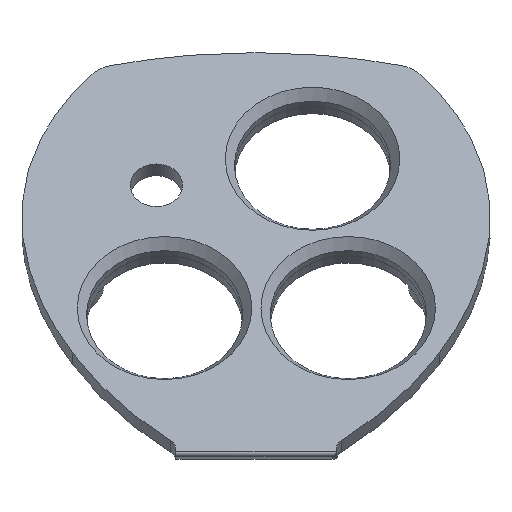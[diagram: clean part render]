
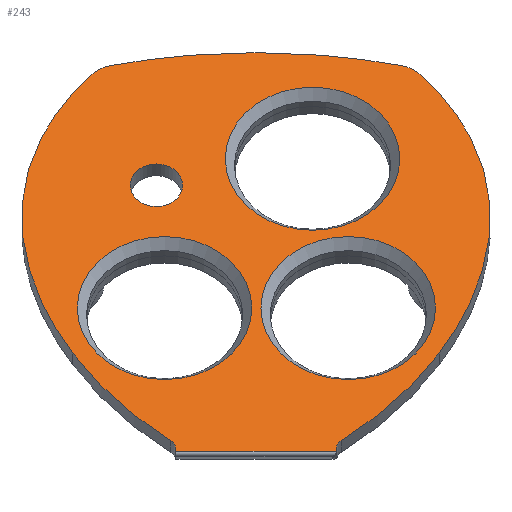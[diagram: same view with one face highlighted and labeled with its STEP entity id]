
A CAD part, front view. The second image highlights one B-rep face of the part: STEP entity #243.
In plain terms, the highlighted planar face has unit normal (0, -0.819, 0.574).
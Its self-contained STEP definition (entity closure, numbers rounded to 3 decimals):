
#128=FACE_BOUND('',#359,.T.);
#129=FACE_BOUND('',#360,.T.);
#130=FACE_BOUND('',#361,.T.);
#131=FACE_BOUND('',#362,.T.);
#132=FACE_BOUND('',#363,.T.);
#185=CIRCLE('',#1103,3.175);
#186=CIRCLE('',#1104,10.628);
#187=CIRCLE('',#1105,1.5);
#188=CIRCLE('',#1106,5.);
#189=CIRCLE('',#1107,5.);
#190=CIRCLE('',#1108,1.5);
#191=CIRCLE('',#1109,10.628);
#192=CIRCLE('',#1110,10.628);
#221=PLANE('',#1111);
#243=ADVANCED_FACE('',(#128,#129,#130,#131,#132),#221,.F.);
#359=EDGE_LOOP('',(#577));
#360=EDGE_LOOP('',(#578));
#361=EDGE_LOOP('',(#579,#580,#581,#582,#583,#584,#585,#586,#587,#588,#589,
#590,#591,#592,#593));
#362=EDGE_LOOP('',(#594));
#363=EDGE_LOOP('',(#595));
#456=LINE('',#1614,#495);
#457=LINE('',#1617,#496);
#458=LINE('',#1619,#497);
#495=VECTOR('',#1234,1.);
#496=VECTOR('',#1235,1.);
#497=VECTOR('',#1236,1.);
#577=ORIENTED_EDGE('',*,*,#943,.T.);
#578=ORIENTED_EDGE('',*,*,#944,.T.);
#579=ORIENTED_EDGE('',*,*,#945,.T.);
#580=ORIENTED_EDGE('',*,*,#946,.T.);
#581=ORIENTED_EDGE('',*,*,#947,.F.);
#582=ORIENTED_EDGE('',*,*,#948,.F.);
#583=ORIENTED_EDGE('',*,*,#949,.F.);
#584=ORIENTED_EDGE('',*,*,#900,.F.);
#585=ORIENTED_EDGE('',*,*,#950,.F.);
#586=ORIENTED_EDGE('',*,*,#951,.F.);
#587=ORIENTED_EDGE('',*,*,#952,.F.);
#588=ORIENTED_EDGE('',*,*,#953,.T.);
#589=ORIENTED_EDGE('',*,*,#954,.T.);
#590=ORIENTED_EDGE('',*,*,#955,.T.);
#591=ORIENTED_EDGE('',*,*,#894,.T.);
#592=ORIENTED_EDGE('',*,*,#956,.T.);
#593=ORIENTED_EDGE('',*,*,#957,.T.);
#594=ORIENTED_EDGE('',*,*,#958,.F.);
#595=ORIENTED_EDGE('',*,*,#959,.T.);
#794=VERTEX_POINT('',#1406);
#795=VERTEX_POINT('',#1417);
#800=VERTEX_POINT('',#1452);
#801=VERTEX_POINT('',#1463);
#837=VERTEX_POINT('',#1611);
#838=VERTEX_POINT('',#1613);
#839=VERTEX_POINT('',#1615);
#840=VERTEX_POINT('',#1616);
#841=VERTEX_POINT('',#1618);
#842=VERTEX_POINT('',#1620);
#843=VERTEX_POINT('',#1622);
#844=VERTEX_POINT('',#1631);
#845=VERTEX_POINT('',#1633);
#846=VERTEX_POINT('',#1638);
#847=VERTEX_POINT('',#1643);
#848=VERTEX_POINT('',#1645);
#849=VERTEX_POINT('',#1654);
#850=VERTEX_POINT('',#1657);
#851=VERTEX_POINT('',#1659);
#894=EDGE_CURVE('',#795,#794,#1031,.T.);
#900=EDGE_CURVE('',#800,#801,#1035,.T.);
#943=EDGE_CURVE('',#837,#837,#185,.T.);
#944=EDGE_CURVE('',#838,#838,#186,.T.);
#945=EDGE_CURVE('',#839,#840,#456,.T.);
#946=EDGE_CURVE('',#840,#841,#457,.T.);
#947=EDGE_CURVE('',#842,#841,#458,.T.);
#948=EDGE_CURVE('',#843,#842,#187,.T.);
#949=EDGE_CURVE('',#801,#843,#1049,.T.);
#950=EDGE_CURVE('',#844,#800,#1050,.T.);
#951=EDGE_CURVE('',#845,#844,#188,.T.);
#952=EDGE_CURVE('',#846,#845,#1051,.T.);
#953=EDGE_CURVE('',#846,#847,#1052,.T.);
#954=EDGE_CURVE('',#847,#848,#189,.T.);
#955=EDGE_CURVE('',#848,#795,#1053,.T.);
#956=EDGE_CURVE('',#794,#849,#1054,.T.);
#957=EDGE_CURVE('',#849,#839,#190,.T.);
#958=EDGE_CURVE('',#850,#850,#191,.T.);
#959=EDGE_CURVE('',#851,#851,#192,.T.);
#1031=B_SPLINE_CURVE_WITH_KNOTS('',3,(#1407,#1408,#1409,#1410,#1411,#1412,
#1413,#1414,#1415,#1416),.UNSPECIFIED.,.F.,.F.,(4,2,2,2,4),(0.,0.25,0.5,
0.75,1.),.UNSPECIFIED.);
#1035=B_SPLINE_CURVE_WITH_KNOTS('',3,(#1453,#1454,#1455,#1456,#1457,#1458,
#1459,#1460,#1461,#1462),.UNSPECIFIED.,.F.,.F.,(4,2,2,2,4),(0.,0.25,0.5,
0.75,1.),.UNSPECIFIED.);
#1049=B_SPLINE_CURVE_WITH_KNOTS('',3,(#1623,#1624,#1625,#1626),.UNSPECIFIED.,
 .F.,.F.,(4,4),(0.,1.),.UNSPECIFIED.);
#1050=B_SPLINE_CURVE_WITH_KNOTS('',3,(#1627,#1628,#1629,#1630),.UNSPECIFIED.,
 .F.,.F.,(4,4),(0.,1.),.UNSPECIFIED.);
#1051=B_SPLINE_CURVE_WITH_KNOTS('',3,(#1634,#1635,#1636,#1637),.UNSPECIFIED.,
 .F.,.F.,(4,4),(0.,1.),.UNSPECIFIED.);
#1052=B_SPLINE_CURVE_WITH_KNOTS('',3,(#1639,#1640,#1641,#1642),.UNSPECIFIED.,
 .F.,.F.,(4,4),(0.,1.),.UNSPECIFIED.);
#1053=B_SPLINE_CURVE_WITH_KNOTS('',3,(#1646,#1647,#1648,#1649),.UNSPECIFIED.,
 .F.,.F.,(4,4),(0.,1.),.UNSPECIFIED.);
#1054=B_SPLINE_CURVE_WITH_KNOTS('',3,(#1650,#1651,#1652,#1653),.UNSPECIFIED.,
 .F.,.F.,(4,4),(0.,1.),.UNSPECIFIED.);
#1103=AXIS2_PLACEMENT_3D('',#1610,#1230,#1231);
#1104=AXIS2_PLACEMENT_3D('',#1612,#1232,#1233);
#1105=AXIS2_PLACEMENT_3D('',#1621,#1237,#1238);
#1106=AXIS2_PLACEMENT_3D('',#1632,#1239,#1240);
#1107=AXIS2_PLACEMENT_3D('',#1644,#1241,#1242);
#1108=AXIS2_PLACEMENT_3D('',#1655,#1243,#1244);
#1109=AXIS2_PLACEMENT_3D('',#1656,#1245,#1246);
#1110=AXIS2_PLACEMENT_3D('',#1658,#1247,#1248);
#1111=AXIS2_PLACEMENT_3D('',#1660,#1249,#1250);
#1230=DIRECTION('',(0.,0.819,-0.574));
#1231=DIRECTION('',(0.,0.574,0.819));
#1232=DIRECTION('',(0.,0.819,-0.574));
#1233=DIRECTION('',(0.,0.574,0.819));
#1234=DIRECTION('',(0.,-0.574,-0.819));
#1235=DIRECTION('',(1.,0.,0.));
#1236=DIRECTION('',(0.,-0.574,-0.819));
#1237=DIRECTION('',(0.,-0.819,0.574));
#1238=DIRECTION('',(0.,0.574,0.819));
#1239=DIRECTION('',(0.,0.819,-0.574));
#1240=DIRECTION('',(0.,0.574,0.819));
#1241=DIRECTION('',(0.,-0.819,0.574));
#1242=DIRECTION('',(0.,0.574,0.819));
#1243=DIRECTION('',(0.,0.819,-0.574));
#1244=DIRECTION('',(0.,0.574,0.819));
#1245=DIRECTION('',(0.,-0.819,0.574));
#1246=DIRECTION('',(0.,0.574,0.819));
#1247=DIRECTION('',(0.,0.819,-0.574));
#1248=DIRECTION('',(0.,0.574,0.819));
#1249=DIRECTION('',(0.,0.819,-0.574));
#1250=DIRECTION('',(0.,0.574,0.819));
#1406=CARTESIAN_POINT('',(67.455,76.899,190.822));
#1407=CARTESIAN_POINT('',(63.679,95.282,217.076));
#1408=CARTESIAN_POINT('',(62.553,93.795,214.952));
#1409=CARTESIAN_POINT('',(61.828,92.252,212.749));
#1410=CARTESIAN_POINT('',(61.148,89.062,208.193));
#1411=CARTESIAN_POINT('',(61.202,87.435,205.869));
#1412=CARTESIAN_POINT('',(61.983,84.261,201.336));
#1413=CARTESIAN_POINT('',(62.717,82.684,199.084));
#1414=CARTESIAN_POINT('',(64.707,79.698,194.82));
#1415=CARTESIAN_POINT('',(65.964,78.27,192.78));
#1416=CARTESIAN_POINT('',(67.455,76.899,190.822));
#1417=CARTESIAN_POINT('',(63.679,95.282,217.076));
#1452=CARTESIAN_POINT('',(115.897,95.282,217.076));
#1453=CARTESIAN_POINT('',(115.897,95.282,217.076));
#1454=CARTESIAN_POINT('',(117.023,93.795,214.952));
#1455=CARTESIAN_POINT('',(117.748,92.252,212.749));
#1456=CARTESIAN_POINT('',(118.428,89.062,208.193));
#1457=CARTESIAN_POINT('',(118.373,87.435,205.869));
#1458=CARTESIAN_POINT('',(117.593,84.261,201.336));
#1459=CARTESIAN_POINT('',(116.859,82.684,199.084));
#1460=CARTESIAN_POINT('',(114.869,79.698,194.82));
#1461=CARTESIAN_POINT('',(113.612,78.27,192.78));
#1462=CARTESIAN_POINT('',(112.121,76.899,190.822));
#1463=CARTESIAN_POINT('',(112.121,76.899,190.822));
#1610=CARTESIAN_POINT('',(77.654,91.192,211.235));
#1611=CARTESIAN_POINT('',(77.654,93.013,213.836));
#1612=CARTESIAN_POINT('',(101.023,80.724,196.285));
#1613=CARTESIAN_POINT('',(101.023,86.82,204.991));
#1614=CARTESIAN_POINT('',(80.001,69.689,180.525));
#1615=CARTESIAN_POINT('',(80.001,68.738,179.167));
#1616=CARTESIAN_POINT('',(80.001,68.52,178.856));
#1617=CARTESIAN_POINT('',(99.075,68.52,178.856));
#1618=CARTESIAN_POINT('',(99.575,68.52,178.856));
#1619=CARTESIAN_POINT('',(99.575,69.689,180.525));
#1620=CARTESIAN_POINT('',(99.575,68.738,179.167));
#1621=CARTESIAN_POINT('',(101.075,68.738,179.167));
#1622=CARTESIAN_POINT('',(100.172,69.425,180.148));
#1623=CARTESIAN_POINT('',(112.121,76.899,190.822));
#1624=CARTESIAN_POINT('',(108.981,74.013,186.7));
#1625=CARTESIAN_POINT('',(104.904,71.471,183.07));
#1626=CARTESIAN_POINT('',(100.172,69.425,180.148));
#1627=CARTESIAN_POINT('',(110.06,100.51,224.543));
#1628=CARTESIAN_POINT('',(112.458,98.952,222.318));
#1629=CARTESIAN_POINT('',(114.452,97.192,219.803));
#1630=CARTESIAN_POINT('',(115.897,95.282,217.076));
#1631=CARTESIAN_POINT('',(110.06,100.51,224.543));
#1632=CARTESIAN_POINT('',(106.312,98.612,221.832));
#1633=CARTESIAN_POINT('',(107.381,101.414,225.833));
#1634=CARTESIAN_POINT('',(89.788,102.506,227.393));
#1635=CARTESIAN_POINT('',(95.718,102.506,227.393));
#1636=CARTESIAN_POINT('',(101.595,102.14,226.871));
#1637=CARTESIAN_POINT('',(107.381,101.414,225.833));
#1638=CARTESIAN_POINT('',(89.788,102.506,227.393));
#1639=CARTESIAN_POINT('',(89.788,102.506,227.393));
#1640=CARTESIAN_POINT('',(83.858,102.506,227.393));
#1641=CARTESIAN_POINT('',(77.981,102.14,226.871));
#1642=CARTESIAN_POINT('',(72.195,101.414,225.833));
#1643=CARTESIAN_POINT('',(72.195,101.414,225.833));
#1644=CARTESIAN_POINT('',(73.264,98.612,221.832));
#1645=CARTESIAN_POINT('',(69.516,100.51,224.543));
#1646=CARTESIAN_POINT('',(69.516,100.51,224.543));
#1647=CARTESIAN_POINT('',(67.118,98.952,222.318));
#1648=CARTESIAN_POINT('',(65.124,97.192,219.803));
#1649=CARTESIAN_POINT('',(63.679,95.282,217.076));
#1650=CARTESIAN_POINT('',(67.455,76.899,190.822));
#1651=CARTESIAN_POINT('',(70.595,74.013,186.7));
#1652=CARTESIAN_POINT('',(74.672,71.471,183.07));
#1653=CARTESIAN_POINT('',(79.404,69.425,180.148));
#1654=CARTESIAN_POINT('',(79.404,69.425,180.148));
#1655=CARTESIAN_POINT('',(78.501,68.738,179.167));
#1656=CARTESIAN_POINT('',(78.654,80.724,196.285));
#1657=CARTESIAN_POINT('',(78.654,86.82,204.991));
#1658=CARTESIAN_POINT('',(96.673,93.458,214.471));
#1659=CARTESIAN_POINT('',(96.673,99.554,223.177));
#1660=CARTESIAN_POINT('',(107.868,71.856,183.62));
